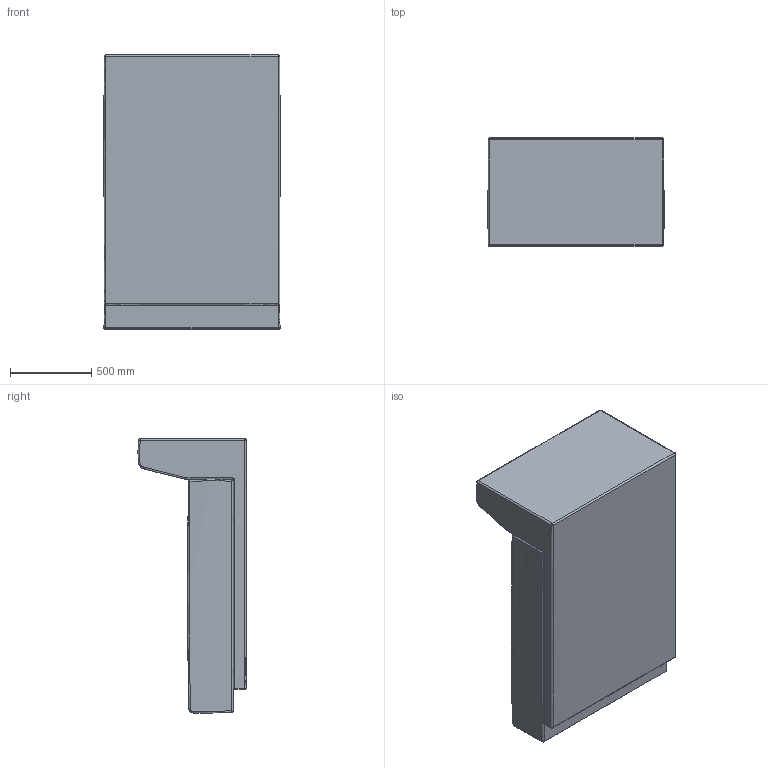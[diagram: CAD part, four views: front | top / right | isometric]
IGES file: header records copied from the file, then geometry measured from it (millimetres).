
Start section: SolidWorks IGES file using NURBS representation for surfaces
Global section: file name: D:\VICCARBE\PRODUCTOS\19-MASS\04-MODELADOS (PLANOS)\SOLIDWORKS\PIEZAS\Backs\01-IGES\VICCARBE_Mass_chaise.IGS; native system: SolidWorks 2009; preprocessor: SolidWorks 2009; author: RUBEN; date: 110908.164353; units: millimetre
Bounding box: 1088 x 664.95 x 1685.92 mm (x, y, z)
Surface area: 9572937 mm2 (no closed solid volume)
Topology: 0 solids, 0 shells, 66 faces, 622 edges, 616 vertices
Faces by surface type: bspline 66
